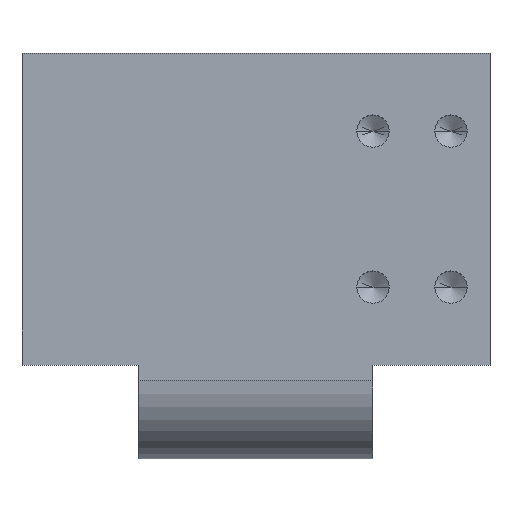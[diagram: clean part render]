
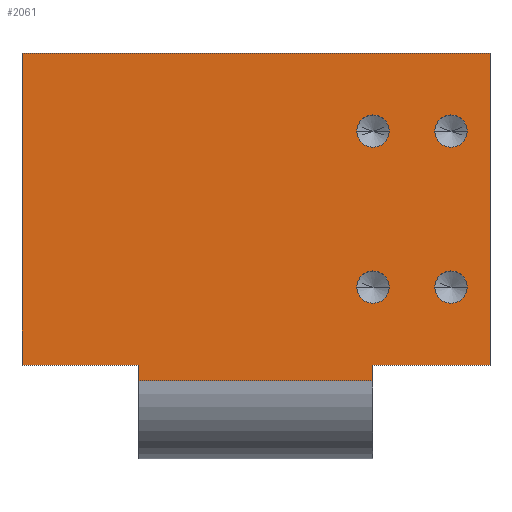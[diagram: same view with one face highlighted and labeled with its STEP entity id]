
A CAD part, top view. The second image highlights one B-rep face of the part: STEP entity #2061.
In plain terms, the highlighted planar face has unit normal (0, 0, 1).
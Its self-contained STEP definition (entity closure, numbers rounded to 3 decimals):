
#41 = CARTESIAN_POINT ( 'NONE',  ( 15., -20., 0. ) ) ;
#91 = VERTEX_POINT ( 'NONE', #2073 ) ;
#100 = DIRECTION ( 'NONE',  ( 1., 0., 0. ) ) ;
#116 = EDGE_CURVE ( 'NONE', #2054, #690, #1134, .T. ) ;
#133 = DIRECTION ( 'NONE',  ( 1., 0., 0. ) ) ;
#159 = ORIENTED_EDGE ( 'NONE', *, *, #353, .F. ) ;
#232 = LINE ( 'NONE', #2272, #2022 ) ;
#249 = ORIENTED_EDGE ( 'NONE', *, *, #273, .F. ) ;
#273 = EDGE_CURVE ( 'NONE', #690, #2054, #2262, .T. ) ;
#280 = EDGE_CURVE ( 'NONE', #1368, #2058, #683, .T. ) ;
#289 = AXIS2_PLACEMENT_3D ( 'NONE', #1899, #836, #2091 ) ;
#308 = CARTESIAN_POINT ( 'NONE',  ( 45., -10., 0. ) ) ;
#311 = DIRECTION ( 'NONE',  ( 0., 0., 1. ) ) ;
#353 = EDGE_CURVE ( 'NONE', #986, #91, #2055, .T. ) ;
#355 = CIRCLE ( 'NONE', #1454, 2.067 ) ;
#364 = CARTESIAN_POINT ( 'NONE',  ( 55., -10., 0. ) ) ;
#378 = CARTESIAN_POINT ( 'NONE',  ( 60., -20., 0. ) ) ;
#397 = CARTESIAN_POINT ( 'NONE',  ( 45., -20., 0. ) ) ;
#410 = EDGE_CURVE ( 'NONE', #91, #986, #1519, .T. ) ;
#418 = EDGE_LOOP ( 'NONE', ( #1244, #1053 ) ) ;
#427 = EDGE_CURVE ( 'NONE', #974, #1254, #1874, .T. ) ;
#437 = VERTEX_POINT ( 'NONE', #1075 ) ;
#440 = CARTESIAN_POINT ( 'NONE',  ( 15., -22., 0. ) ) ;
#443 = CARTESIAN_POINT ( 'NONE',  ( 45., -22., 0. ) ) ;
#446 = CARTESIAN_POINT ( 'NONE',  ( 47.067, 10., 0. ) ) ;
#450 = AXIS2_PLACEMENT_3D ( 'NONE', #1701, #1358, #100 ) ;
#462 = CARTESIAN_POINT ( 'NONE',  ( 57.067, 10., 0. ) ) ;
#487 = DIRECTION ( 'NONE',  ( 0., 0., 1. ) ) ;
#491 = DIRECTION ( 'NONE',  ( 1., 0., 0. ) ) ;
#496 = AXIS2_PLACEMENT_3D ( 'NONE', #1531, #2078, #1008 ) ;
#508 = EDGE_CURVE ( 'NONE', #1794, #1245, #2087, .T. ) ;
#509 = ORIENTED_EDGE ( 'NONE', *, *, #2191, .F. ) ;
#513 = DIRECTION ( 'NONE',  ( 1., 0., 0. ) ) ;
#528 = FACE_BOUND ( 'NONE', #418, .T. ) ;
#543 = CARTESIAN_POINT ( 'NONE',  ( 45., -10., 0. ) ) ;
#550 = DIRECTION ( 'NONE',  ( 1., 0., 0. ) ) ;
#563 = VERTEX_POINT ( 'NONE', #2164 ) ;
#573 = ORIENTED_EDGE ( 'NONE', *, *, #2310, .F. ) ;
#593 = FACE_BOUND ( 'NONE', #1263, .T. ) ;
#619 = VERTEX_POINT ( 'NONE', #1426 ) ;
#635 = VECTOR ( 'NONE', #513, 1000. ) ;
#680 = EDGE_CURVE ( 'NONE', #563, #437, #2217, .T. ) ;
#683 = LINE ( 'NONE', #999, #2044 ) ;
#690 = VERTEX_POINT ( 'NONE', #2082 ) ;
#700 = CIRCLE ( 'NONE', #995, 2.067 ) ;
#726 = DIRECTION ( 'NONE',  ( 1., 0., 0. ) ) ;
#745 = ORIENTED_EDGE ( 'NONE', *, *, #1748, .T. ) ;
#827 = VERTEX_POINT ( 'NONE', #443 ) ;
#836 = DIRECTION ( 'NONE',  ( 0., 0., 1. ) ) ;
#849 = CARTESIAN_POINT ( 'NONE',  ( 60., -20., 0. ) ) ;
#858 = DIRECTION ( 'NONE',  ( 1., 0., 0. ) ) ;
#862 = LINE ( 'NONE', #902, #1282 ) ;
#865 = CARTESIAN_POINT ( 'NONE',  ( 60., -20., 0. ) ) ;
#886 = CIRCLE ( 'NONE', #1956, 2.067 ) ;
#902 = CARTESIAN_POINT ( 'NONE',  ( 45., 20., 0. ) ) ;
#908 = DIRECTION ( 'NONE',  ( -1., 0., 0. ) ) ;
#944 = CARTESIAN_POINT ( 'NONE',  ( 45., 10., 0. ) ) ;
#974 = VERTEX_POINT ( 'NONE', #440 ) ;
#986 = VERTEX_POINT ( 'NONE', #446 ) ;
#995 = AXIS2_PLACEMENT_3D ( 'NONE', #1386, #311, #1561 ) ;
#996 = FACE_BOUND ( 'NONE', #1398, .T. ) ;
#999 = CARTESIAN_POINT ( 'NONE',  ( 0., 20., 0. ) ) ;
#1008 = DIRECTION ( 'NONE',  ( -1., 0., 0. ) ) ;
#1037 = DIRECTION ( 'NONE',  ( 0., -1., 0. ) ) ;
#1053 = ORIENTED_EDGE ( 'NONE', *, *, #1952, .F. ) ;
#1060 = LINE ( 'NONE', #1587, #635 ) ;
#1075 = CARTESIAN_POINT ( 'NONE',  ( 42.933, -10., 0. ) ) ;
#1089 = DIRECTION ( 'NONE',  ( 0., -1., 0. ) ) ;
#1123 = VECTOR ( 'NONE', #858, 1000. ) ;
#1130 = DIRECTION ( 'NONE',  ( 1., 0., 0. ) ) ;
#1134 = CIRCLE ( 'NONE', #450, 2.067 ) ;
#1153 = ORIENTED_EDGE ( 'NONE', *, *, #410, .F. ) ;
#1213 = CARTESIAN_POINT ( 'NONE',  ( 0., -20., 0. ) ) ;
#1244 = ORIENTED_EDGE ( 'NONE', *, *, #1709, .F. ) ;
#1245 = VERTEX_POINT ( 'NONE', #397 ) ;
#1254 = VERTEX_POINT ( 'NONE', #41 ) ;
#1263 = EDGE_LOOP ( 'NONE', ( #1875, #249 ) ) ;
#1282 = VECTOR ( 'NONE', #1089, 1000. ) ;
#1305 = DIRECTION ( 'NONE',  ( 0., 1., 0. ) ) ;
#1358 = DIRECTION ( 'NONE',  ( 0., 0., 1. ) ) ;
#1366 = EDGE_CURVE ( 'NONE', #1368, #1254, #232, .T. ) ;
#1368 = VERTEX_POINT ( 'NONE', #1213 ) ;
#1386 = CARTESIAN_POINT ( 'NONE',  ( 55., -10., 0. ) ) ;
#1398 = EDGE_LOOP ( 'NONE', ( #159, #1153 ) ) ;
#1412 = EDGE_CURVE ( 'NONE', #619, #1794, #1604, .T. ) ;
#1420 = VECTOR ( 'NONE', #1305, 1000. ) ;
#1426 = CARTESIAN_POINT ( 'NONE',  ( 60., 20., 0. ) ) ;
#1454 = AXIS2_PLACEMENT_3D ( 'NONE', #543, #1781, #726 ) ;
#1473 = CARTESIAN_POINT ( 'NONE',  ( 15., -32., 0. ) ) ;
#1477 = FACE_OUTER_BOUND ( 'NONE', #1967, .T. ) ;
#1492 = VERTEX_POINT ( 'NONE', #1592 ) ;
#1519 = CIRCLE ( 'NONE', #2072, 2.067 ) ;
#1531 = CARTESIAN_POINT ( 'NONE',  ( 0., 0., 0. ) ) ;
#1537 = VECTOR ( 'NONE', #1037, 1000. ) ;
#1545 = ORIENTED_EDGE ( 'NONE', *, *, #508, .F. ) ;
#1556 = CARTESIAN_POINT ( 'NONE',  ( 55., 10., 0. ) ) ;
#1559 = DIRECTION ( 'NONE',  ( 0., 0., 1. ) ) ;
#1561 = DIRECTION ( 'NONE',  ( 1., 0., 0. ) ) ;
#1587 = CARTESIAN_POINT ( 'NONE',  ( 15., 20., 0. ) ) ;
#1589 = LINE ( 'NONE', #1919, #1123 ) ;
#1592 = CARTESIAN_POINT ( 'NONE',  ( 52.933, -10., 0. ) ) ;
#1604 = LINE ( 'NONE', #849, #1537 ) ;
#1624 = DIRECTION ( 'NONE',  ( 0., 0., 1. ) ) ;
#1626 = ORIENTED_EDGE ( 'NONE', *, *, #680, .F. ) ;
#1646 = ORIENTED_EDGE ( 'NONE', *, *, #427, .F. ) ;
#1701 = CARTESIAN_POINT ( 'NONE',  ( 55., 10., 0. ) ) ;
#1709 = EDGE_CURVE ( 'NONE', #1819, #1492, #700, .T. ) ;
#1711 = CARTESIAN_POINT ( 'NONE',  ( 0., 20., 0. ) ) ;
#1731 = DIRECTION ( 'NONE',  ( 1., 0., 0. ) ) ;
#1748 = EDGE_CURVE ( 'NONE', #974, #827, #1589, .T. ) ;
#1781 = DIRECTION ( 'NONE',  ( 0., 0., 1. ) ) ;
#1794 = VERTEX_POINT ( 'NONE', #865 ) ;
#1803 = EDGE_CURVE ( 'NONE', #2058, #619, #1060, .T. ) ;
#1819 = VERTEX_POINT ( 'NONE', #2127 ) ;
#1824 = ORIENTED_EDGE ( 'NONE', *, *, #1803, .F. ) ;
#1827 = ORIENTED_EDGE ( 'NONE', *, *, #280, .F. ) ;
#1874 = LINE ( 'NONE', #1473, #1420 ) ;
#1875 = ORIENTED_EDGE ( 'NONE', *, *, #116, .F. ) ;
#1883 = PLANE ( 'NONE',  #496 ) ;
#1899 = CARTESIAN_POINT ( 'NONE',  ( 45., 10., 0. ) ) ;
#1919 = CARTESIAN_POINT ( 'NONE',  ( 45., -22., 0. ) ) ;
#1930 = AXIS2_PLACEMENT_3D ( 'NONE', #308, #1559, #491 ) ;
#1948 = FACE_BOUND ( 'NONE', #2028, .T. ) ;
#1952 = EDGE_CURVE ( 'NONE', #1492, #1819, #886, .T. ) ;
#1956 = AXIS2_PLACEMENT_3D ( 'NONE', #364, #1624, #550 ) ;
#1959 = ORIENTED_EDGE ( 'NONE', *, *, #1412, .F. ) ;
#1967 = EDGE_LOOP ( 'NONE', ( #1646, #745, #573, #1545, #1959, #1824, #1827, #2138 ) ) ;
#2019 = AXIS2_PLACEMENT_3D ( 'NONE', #1556, #487, #1731 ) ;
#2022 = VECTOR ( 'NONE', #133, 1000. ) ;
#2028 = EDGE_LOOP ( 'NONE', ( #1626, #509 ) ) ;
#2030 = VECTOR ( 'NONE', #908, 1000. ) ;
#2044 = VECTOR ( 'NONE', #2240, 1000. ) ;
#2054 = VERTEX_POINT ( 'NONE', #462 ) ;
#2055 = CIRCLE ( 'NONE', #289, 2.067 ) ;
#2058 = VERTEX_POINT ( 'NONE', #1711 ) ;
#2061 = ADVANCED_FACE ( 'NONE', ( #593, #528, #996, #1948, #1477 ), #1883, .F. ) ;
#2072 = AXIS2_PLACEMENT_3D ( 'NONE', #944, #2185, #1130 ) ;
#2073 = CARTESIAN_POINT ( 'NONE',  ( 42.933, 10., 0. ) ) ;
#2078 = DIRECTION ( 'NONE',  ( 0., 0., -1. ) ) ;
#2082 = CARTESIAN_POINT ( 'NONE',  ( 52.933, 10., 0. ) ) ;
#2087 = LINE ( 'NONE', #378, #2030 ) ;
#2091 = DIRECTION ( 'NONE',  ( 1., 0., 0. ) ) ;
#2127 = CARTESIAN_POINT ( 'NONE',  ( 57.067, -10., 0. ) ) ;
#2138 = ORIENTED_EDGE ( 'NONE', *, *, #1366, .T. ) ;
#2164 = CARTESIAN_POINT ( 'NONE',  ( 47.067, -10., 0. ) ) ;
#2185 = DIRECTION ( 'NONE',  ( 0., 0., 1. ) ) ;
#2191 = EDGE_CURVE ( 'NONE', #437, #563, #355, .T. ) ;
#2217 = CIRCLE ( 'NONE', #1930, 2.067 ) ;
#2240 = DIRECTION ( 'NONE',  ( 0., 1., 0. ) ) ;
#2262 = CIRCLE ( 'NONE', #2019, 2.067 ) ;
#2272 = CARTESIAN_POINT ( 'NONE',  ( 0., -20., 0. ) ) ;
#2310 = EDGE_CURVE ( 'NONE', #1245, #827, #862, .T. ) ;
